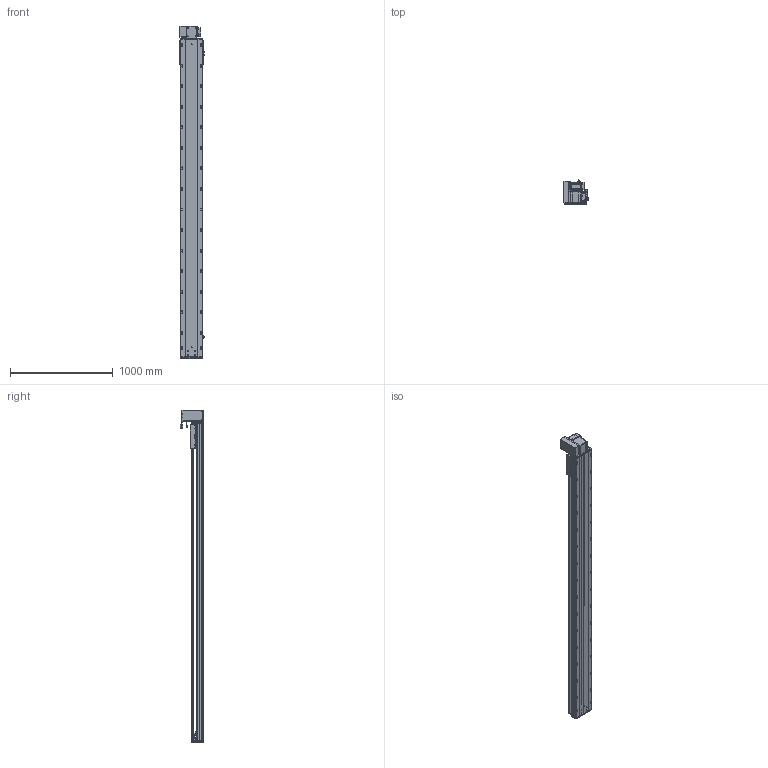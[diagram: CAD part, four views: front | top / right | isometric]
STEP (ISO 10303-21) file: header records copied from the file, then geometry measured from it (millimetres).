
FILE_DESCRIPTION (( 'STEP AP203' ), '1' );
FILE_NAME ('RY220-T-300-UL.SLDASM_2750.step', '2022-07-25T08:36:01', ( '' ), ( '' ), 'SwSTEP 2.0', 'SolidWorks 2016', '' );
FILE_SCHEMA (( 'CONFIG_CONTROL_DESIGN' ));
Length unit declared in the file: millimetre
Products named in the file (14): 滅袉蝶18-15; RY220圉猾敕々湍臏賑輸; RY220-T菁釱-300_2750; RY220-T-300-奻裔啣_2750; RY220翋肮祭謫裔啣; RY220-T-湍謫欶(鍼踢); RY220-俋离672覜茼んえ; RY220-同步轮副支撑座6304×2; 覜茼ん672; RY220-T-蛌殏萇儂假蚾啣(750W); RY220翋肮祭謫釱; RY220-T-300-UL.SLDASM_2750; 110A-T-肮祭謫釱傷裔; 怢湛750W_ECMA-CX0807ES
Assembly tree (18 placements, depth 2):
  RY220-T-300-UL.SLDASM_2750
    RY220-T菁釱-300_2750
    RY220翋肮祭謫釱
    覜茼ん672  x3
    RY220圉猾敕々湍臏賑輸
    RY220-T-300-奻裔啣_2750
    RY220-俋离672覜茼んえ
    滅袉蝶18-15  x3
    RY220翋肮祭謫裔啣  x2
    110A-T-肮祭謫釱傷裔
    怢湛750W_ECMA-CX0807ES
    RY220-T-湍謫欶(鍼踢)
    RY220-T-蛌殏萇儂假蚾啣(750W)
    RY220-同步轮副支撑座6304×2
Bounding box: 239.7 x 231.74 x 3230.5 mm (x, y, z)
Volume: 23585506.5 mm3; surface area: 7271844 mm2
Topology: 19 solids, 19 shells, 2982 faces, 8247 edges, 5168 vertices
Faces by surface type: cylinder 1466, plane 1069, cone 365, bspline 56, sphere 16, torus 10
Entity records: 99411 total; most frequent: CARTESIAN_POINT 28053, ORIENTED_EDGE 14746, DIRECTION 14224, EDGE_CURVE 7373, AXIS2_PLACEMENT_3D 5128, VERTEX_POINT 4792, VECTOR 3968, LINE 3968
